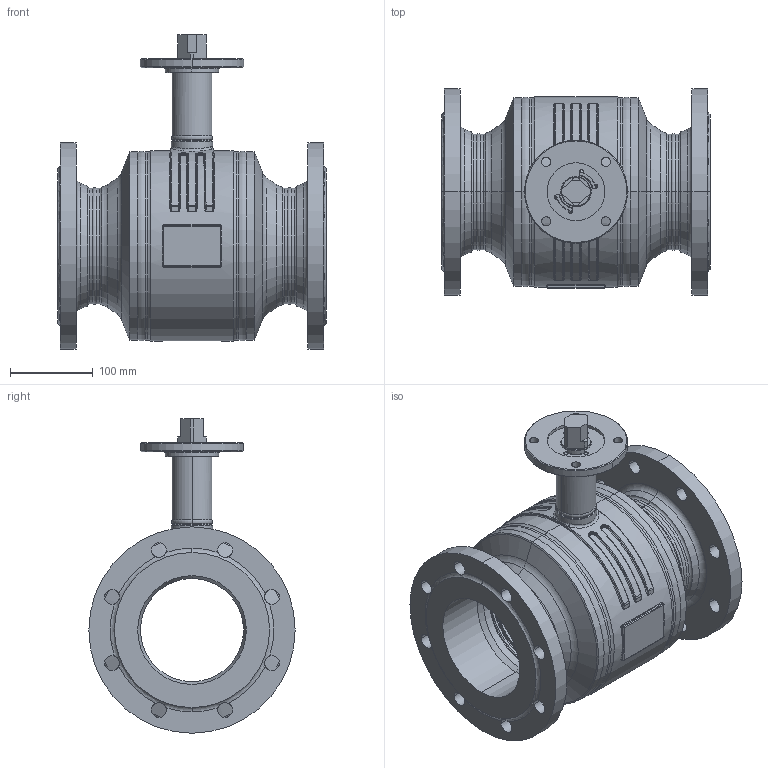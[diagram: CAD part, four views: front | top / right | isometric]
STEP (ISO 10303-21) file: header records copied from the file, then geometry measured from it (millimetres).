
FILE_DESCRIPTION((''),'2;1');
FILE_NAME('KHMO-F-V-H-125P016-VI_SW0001','2025-04-22T16:25:27',('jeitlers'),('KLINGER'),'CREO PARAMETRIC BY PTC INC, 2023014','CREO PARAMETRIC BY PTC INC, 2023014','');
FILE_SCHEMA(('CONFIG_CONTROL_DESIGN'));
Length unit declared in the file: millimetre
Products named in the file (1): KHMO-F-V-H-125P016-VI_SW0001
Bounding box: 325 x 250 x 381 mm (x, y, z)
Volume: 4576683.5 mm3; surface area: 1008408.3 mm2
Topology: 2 solids, 2 shells, 607 faces, 1497 edges, 892 vertices
Faces by surface type: cylinder 222, torus 132, plane 111, cone 82, bspline 52, sphere 8
Entity records: 31441 total; most frequent: CARTESIAN_POINT 16892, DIRECTION 3267, ORIENTED_EDGE 2978, EDGE_CURVE 1489, AXIS2_PLACEMENT_3D 1399, VERTEX_POINT 892, CIRCLE 844, EDGE_LOOP 673
